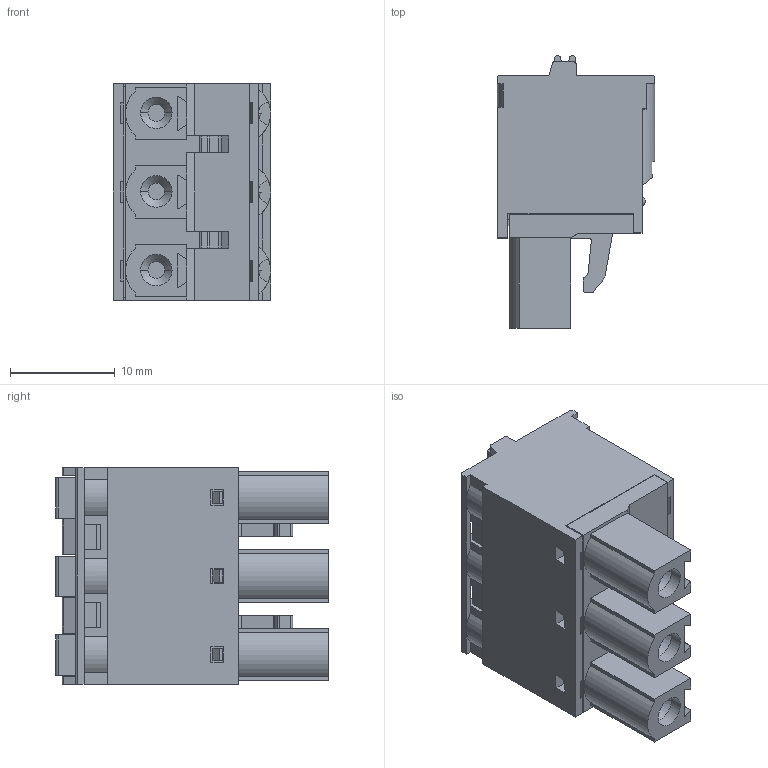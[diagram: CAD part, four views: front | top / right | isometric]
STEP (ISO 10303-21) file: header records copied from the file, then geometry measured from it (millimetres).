
FILE_DESCRIPTION((''),'2;1');
FILE_NAME('33','2019-04-10T',('zhenbing.lai'),(''),'CREO PARAMETRIC BY PTC INC, 2016260','CREO PARAMETRIC BY PTC INC, 2016260','');
FILE_SCHEMA(('CONFIG_CONTROL_DESIGN'));
Length unit declared in the file: millimetre
Products named in the file (1): 33
Bounding box: 15 x 26 x 20.7 mm (x, y, z)
Volume: 5070.6 mm3; surface area: 2907.5 mm2
Topology: 1 solids, 3 shells, 396 faces, 1092 edges, 716 vertices
Faces by surface type: plane 308, cylinder 76, cone 6, sphere 6
Entity records: 12574 total; most frequent: CARTESIAN_POINT 2302, ORIENTED_EDGE 2172, DIRECTION 2061, EDGE_CURVE 1086, VECTOR 861, LINE 861, VERTEX_POINT 716, AXIS2_PLACEMENT_3D 600
